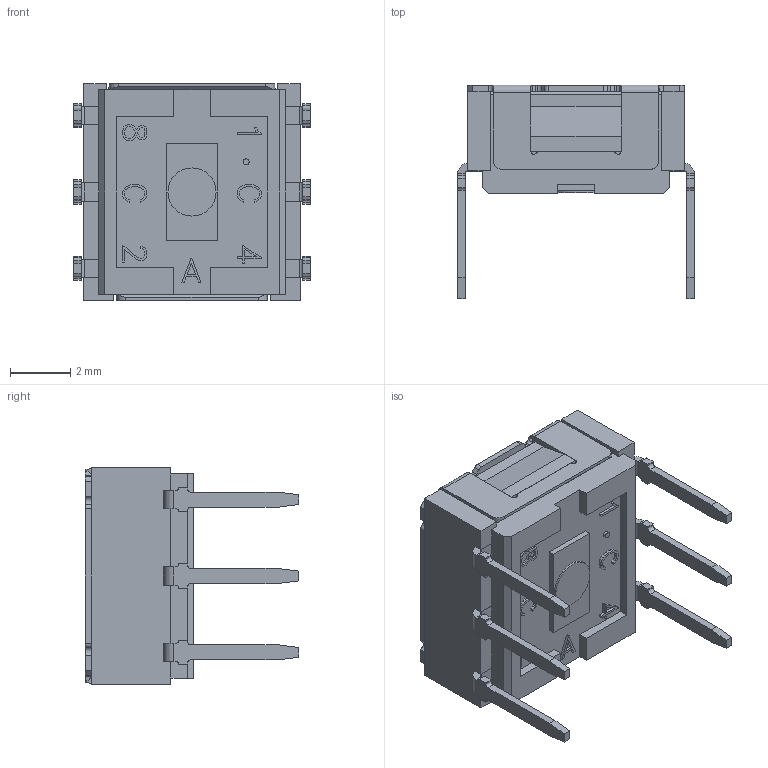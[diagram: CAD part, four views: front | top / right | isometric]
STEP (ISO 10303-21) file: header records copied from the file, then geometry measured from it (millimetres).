
FILE_DESCRIPTION (( 'STEP AP203' ), '1' );
FILE_NAME ('RSH-14RH.STEP', '2019-07-05T03:49:56', ( '' ), ( '' ), 'SwSTEP 2.0', 'SolidWorks 2017', '' );
FILE_SCHEMA (( 'CONFIG_CONTROL_DESIGN' ));
Length unit declared in the file: millimetre
Products named in the file (6): RSH-B01_H(6 PIN); RSH-T01_H(6 PIN); RSH-14RH; RSH-B01; ROTOR4_No.1預設; RSH-C01_04P
Assembly tree (5 placements, depth 3):
  RSH-14RH
    RSH-B01_H(6 PIN)
      RSH-B01
      RSH-T01_H(6 PIN)
    RSH-C01_04P
    ROTOR4_No.1預設
Bounding box: 7.87 x 7.1 x 7.2 mm (x, y, z)
Volume: 140.3 mm3; surface area: 658.3 mm2
Topology: 4 solids, 4 shells, 1082 faces, 3035 edges, 1970 vertices
Faces by surface type: plane 700, cylinder 333, bspline 47, cone 2
Entity records: 37411 total; most frequent: CARTESIAN_POINT 8779, ORIENTED_EDGE 6070, DIRECTION 5579, EDGE_CURVE 3035, VECTOR 2175, LINE 2175, VERTEX_POINT 1970, AXIS2_PLACEMENT_3D 1702
